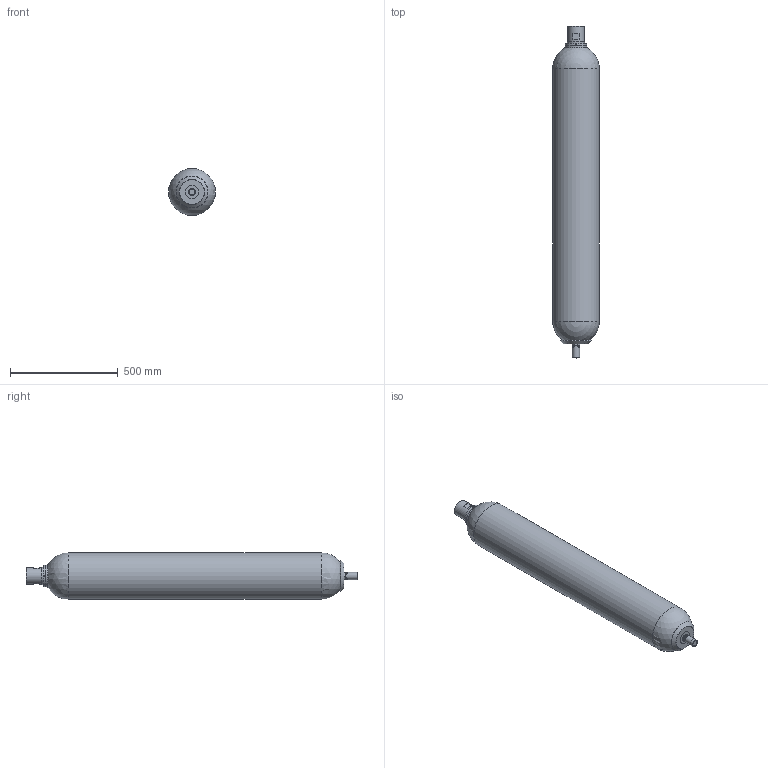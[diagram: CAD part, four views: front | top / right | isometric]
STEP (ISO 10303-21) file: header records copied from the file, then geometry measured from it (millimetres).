
FILE_DESCRIPTION((''),'2;1');
FILE_NAME('F:\STEP\ALLEGE\GAMME_EHV_STD_330&350bar\EHV_42_330_90.stp','2014-01-29T09:02:34',('EL769727'),(''),'Autodesk Inventor 2013','Autodesk Inventor 2013','');
FILE_SCHEMA(('AUTOMOTIVE_DESIGN { 1 0 10303 214 1 1 1 1 }'));
Length unit declared in the file: millimetre
Products named in the file (12): AC108370-08540; CA109308-00198; BC110298-00240; BM110296-00200; CB110082-00200; BE105544-00200; EC100990-00200; PF108368-05200; BP102851-00200; BP102851-00200 BOUCHON DE PROTECTION; BP102851-00200 BOUCHON PLASTIQUE; EC102958-00200
Assembly tree (11 placements, depth 4):
  AC108370-08540
    CA109308-00198
    BC110298-00240
      BM110296-00200
        CB110082-00200
      BE105544-00200
      EC100990-00200
    PF108368-05200
    BP102851-00200
      BP102851-00200 BOUCHON DE PROTECTION
      BP102851-00200 BOUCHON PLASTIQUE
    EC102958-00200
Bounding box: 216.7 x 1537.2 x 216.7 mm (x, y, z)
Volume: 8335309.2 mm3; surface area: 1943913.1 mm2
Topology: 8 solids, 8 shells, 138 faces, 319 edges, 201 vertices
Faces by surface type: plane 53, cylinder 40, cone 28, torus 12, sphere 4, bspline 1
Full cylindrical faces by diameter (mm): 12 x1, 15 x6, 18 x1, 20 x1, 20.68 x1, 22.5 x1, 25 x1, 28.5 x2, 29.5 x1, 30.05 x1, 31 x1, 33.6 x1, 54 x2, 56.656 x1, 60 x1, 76 x2, 76.835 x1, 79 x1, 80 x2, 88.4 x1, 88.9 x1, 88.95 x1, 101 x1, 200 x1, 216.7 x1
Entity records: 3746 total; most frequent: CARTESIAN_POINT 667, DIRECTION 644, ORIENTED_EDGE 422, AXIS2_PLACEMENT_3D 291, EDGE_LOOP 246, EDGE_CURVE 211, VERTEX_POINT 171, FACE_OUTER_BOUND 138
